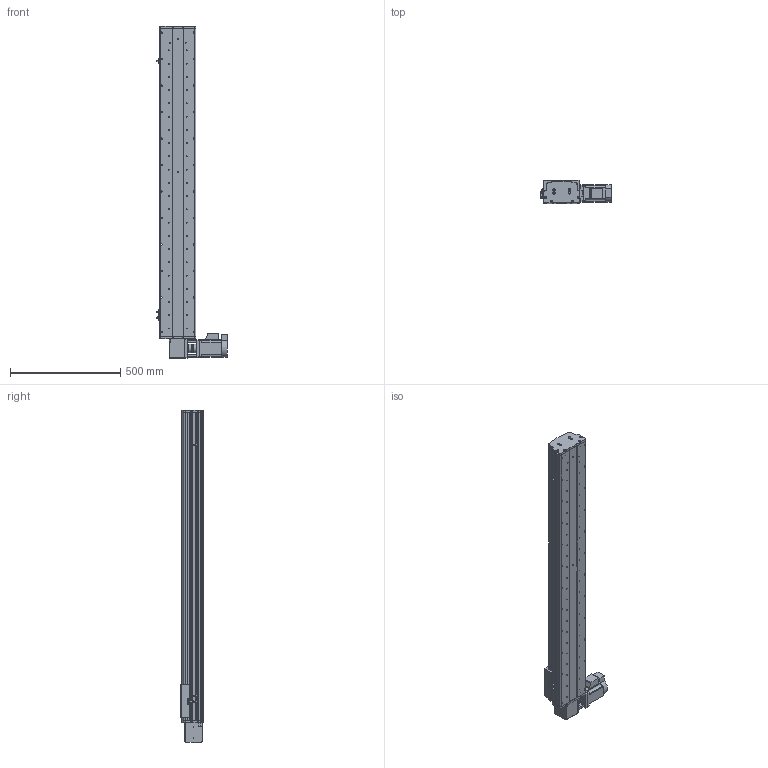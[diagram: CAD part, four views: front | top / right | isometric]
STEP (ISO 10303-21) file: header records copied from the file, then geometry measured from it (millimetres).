
FILE_DESCRIPTION (( 'STEP AP214' ), '1' );
FILE_NAME ('KSD165B-S1150-MRT-CM.STEP', '2017-08-14T06:03:11', ( '微软用户' ), ( '微软中国' ), 'SwSTEP 2.0', 'SolidWorks 2014', '' );
FILE_SCHEMA (( 'AUTOMOTIVE_DESIGN' ));
Length unit declared in the file: millimetre
Products named in the file (16): KSD165模组同步带底板-1150行程; 拸秶雄ん750W侜督萇儂; 165宽安装板同步带带电机座750W; 165宽马达安装板同步带右; C39ㄜ1419WP; U倰嫖萇假蚾璃; U倰嫖萇EEㄜSX672; 覜茼え68遵圉猾敕; KSD165模组-同步带-防撞垫2; KSD165模组同步带-防撞垫1; KSD165耀郪-ヶ傷啣1-肮祭湍; KSD165模组-后端板1-同步带; 130宽马达安装板1-带电机座750W（1）; KSD165模组-同步带滑动座-最新版; KSD165B-S1150-MRT-CM; KSD165模组-同步带防尘盖1-1150行程
Assembly tree (19 placements, depth 2):
  KSD165B-S1150-MRT-CM
    KSD165模组-同步带滑动座-最新版
    130宽马达安装板1-带电机座750W（1）
    KSD165模组-后端板1-同步带
    KSD165耀郪-ヶ傷啣1-肮祭湍
    KSD165模组同步带-防撞垫1
    KSD165模组-同步带-防撞垫2
    覜茼え68遵圉猾敕
    U倰嫖萇EEㄜSX672  x3
    U倰嫖萇假蚾璃  x3
    C39ㄜ1419WP
    165宽马达安装板同步带右
    165宽安装板同步带带电机座750W
    拸秶雄ん750W侜督萇儂
    KSD165模组同步带底板-1150行程
    KSD165模组-同步带防尘盖1-1150行程
Bounding box: 321.2 x 104 x 1504 mm (x, y, z)
Volume: 8563930.2 mm3; surface area: 1939709.5 mm2
Topology: 20 solids, 20 shells, 1532 faces, 4272 edges, 2769 vertices
Faces by surface type: cylinder 855, plane 583, cone 94
Entity records: 49183 total; most frequent: CARTESIAN_POINT 10301, DIRECTION 7626, ORIENTED_EDGE 7196, EDGE_CURVE 3598, AXIS2_PLACEMENT_3D 2910, VERTEX_POINT 2361, LINE 1806, VECTOR 1806
